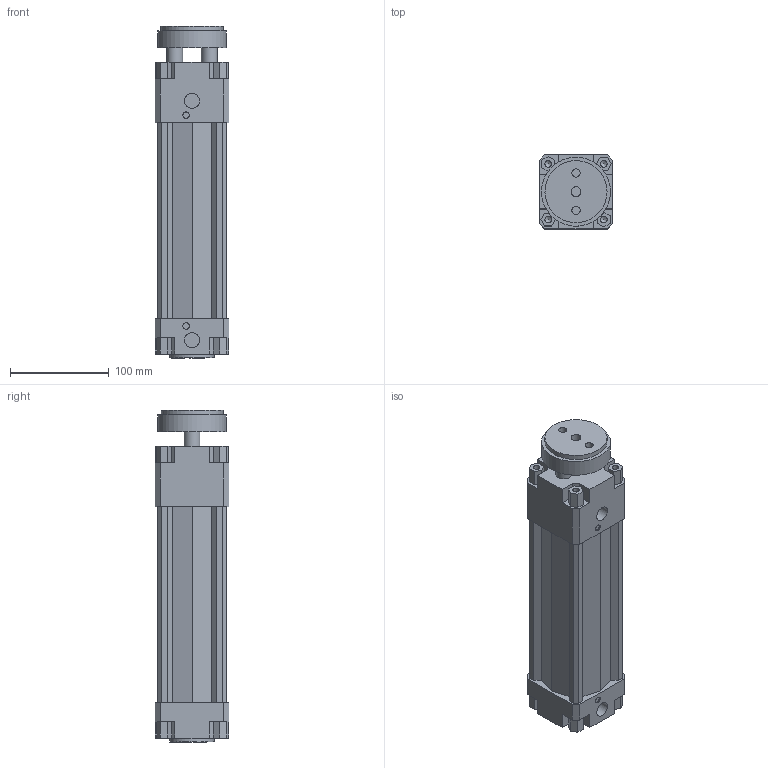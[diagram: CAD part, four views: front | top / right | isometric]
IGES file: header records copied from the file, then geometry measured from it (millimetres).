
Global section: file name: 134#_063_0150_01; native system: Autodesk Inventor 2014; preprocessor: unknown; author: A. Manieri; date: 20161006.165118; units: millimetre
Bounding box: 75 x 75 x 337 mm (x, y, z)
Volume: 1054178.9 mm3; surface area: 214319.5 mm2
Topology: 2 solids, 2 shells, 180 faces, 491 edges, 335 vertices
Faces by surface type: bspline 180
